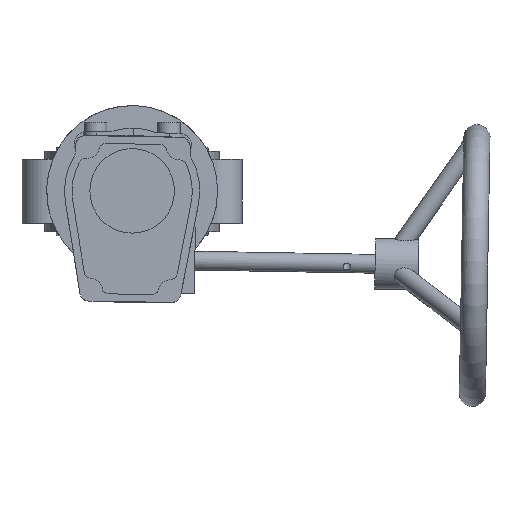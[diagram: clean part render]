
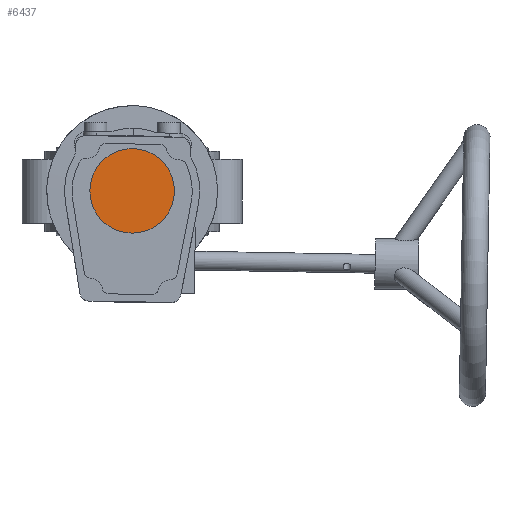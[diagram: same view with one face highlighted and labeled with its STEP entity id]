
A CAD part, top view. The second image highlights one B-rep face of the part: STEP entity #6437.
In plain terms, the highlighted planar face has unit normal (0, 0, 1).
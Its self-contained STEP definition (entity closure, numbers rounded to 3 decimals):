
#3193 = EDGE_LOOP ( 'NONE', ( #11206 ) ) ;
#3447 = PLANE ( 'NONE',  #7062 ) ;
#3863 = DIRECTION ( 'NONE',  ( 0.044, -0.999, 0. ) ) ;
#4053 = DIRECTION ( 'NONE',  ( 1., 0., 0. ) ) ;
#4438 = FACE_OUTER_BOUND ( 'NONE', #3193, .T. ) ;
#4744 = DIRECTION ( 'NONE',  ( 0., 0., 1. ) ) ;
#4893 = EDGE_CURVE ( 'NONE', #5101, #5101, #6234, .T. ) ;
#4982 = CARTESIAN_POINT ( 'NONE',  ( -199.577, 19.211, 26.886 ) ) ;
#5101 = VERTEX_POINT ( 'NONE', #11037 ) ;
#6234 = CIRCLE ( 'NONE', #10470, 22.5 ) ;
#6437 = ADVANCED_FACE ( 'NONE', ( #4438 ), #3447, .T. ) ;
#7062 = AXIS2_PLACEMENT_3D ( 'NONE', #8105, #4744, #3863 ) ;
#8105 = CARTESIAN_POINT ( 'NONE',  ( -199.577, 19.211, 26.886 ) ) ;
#10470 = AXIS2_PLACEMENT_3D ( 'NONE', #4982, #11029, #4053 ) ;
#11029 = DIRECTION ( 'NONE',  ( 0., 0., 1. ) ) ;
#11037 = CARTESIAN_POINT ( 'NONE',  ( -177.077, 19.211, 26.886 ) ) ;
#11206 = ORIENTED_EDGE ( 'NONE', *, *, #4893, .T. ) ;
